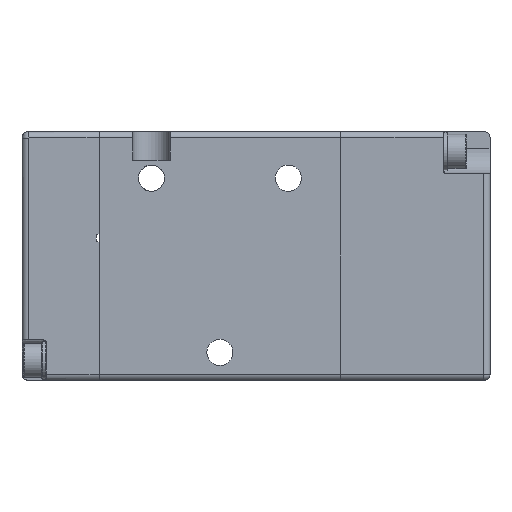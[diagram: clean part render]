
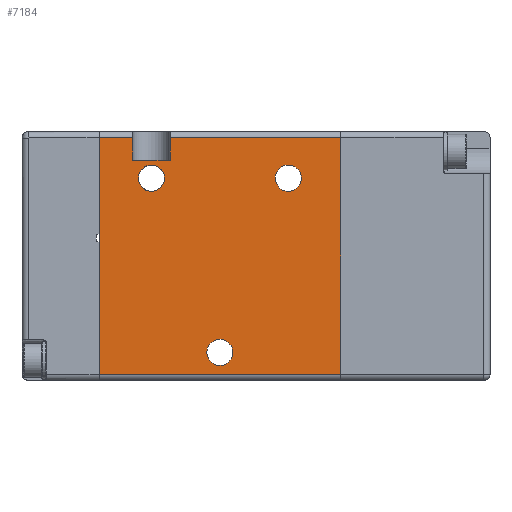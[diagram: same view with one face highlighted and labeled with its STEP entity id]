
A CAD part, front view. The second image highlights one B-rep face of the part: STEP entity #7184.
In plain terms, the highlighted planar face has unit normal (0, -1, 0).
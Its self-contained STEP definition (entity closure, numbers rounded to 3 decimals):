
#25 = ORIENTED_EDGE ( 'NONE', *, *, #6120, .T. ) ;
#132 = ORIENTED_EDGE ( 'NONE', *, *, #6239, .F. ) ;
#196 = ORIENTED_EDGE ( 'NONE', *, *, #6322, .F. ) ;
#198 = ORIENTED_EDGE ( 'NONE', *, *, #5565, .T. ) ;
#252 = ORIENTED_EDGE ( 'NONE', *, *, #6226, .F. ) ;
#389 = ORIENTED_EDGE ( 'NONE', *, *, #5856, .T. ) ;
#464 = ORIENTED_EDGE ( 'NONE', *, *, #5855, .T. ) ;
#484 = ORIENTED_EDGE ( 'NONE', *, *, #5858, .F. ) ;
#488 = ORIENTED_EDGE ( 'NONE', *, *, #6108, .T. ) ;
#554 = ORIENTED_EDGE ( 'NONE', *, *, #5848, .F. ) ;
#696 = VERTEX_POINT ( 'NONE', #3625 ) ;
#834 = ORIENTED_EDGE ( 'NONE', *, *, #6298, .F. ) ;
#924 = VERTEX_POINT ( 'NONE', #3913 ) ;
#1276 = DIRECTION ( 'NONE',  ( 1., 0., 0. ) ) ;
#1374 = DIRECTION ( 'NONE',  ( 1., 0., 0. ) ) ;
#1375 = CARTESIAN_POINT ( 'NONE',  ( -4.102, -11., -18.4 ) ) ;
#1399 = CARTESIAN_POINT ( 'NONE',  ( -23.502, -11., -22.9 ) ) ;
#1532 = DIRECTION ( 'NONE',  ( 0., -1., 0. ) ) ;
#1590 = DIRECTION ( 'NONE',  ( -1., 0., 0. ) ) ;
#1937 = CARTESIAN_POINT ( 'NONE',  ( -69.153, -11., -21.9 ) ) ;
#2005 = CARTESIAN_POINT ( 'NONE',  ( -69.153, -11., 16.1 ) ) ;
#2048 = DIRECTION ( 'NONE',  ( 0., 0., 1. ) ) ;
#2108 = DIRECTION ( 'NONE',  ( 0., 0., 1. ) ) ;
#2187 = CARTESIAN_POINT ( 'NONE',  ( 15.298, -11., -22.9 ) ) ;
#3612 = DIRECTION ( 'NONE',  ( -1., 0., 0. ) ) ;
#3625 = CARTESIAN_POINT ( 'NONE',  ( -23.502, -11., -21.9 ) ) ;
#3913 = CARTESIAN_POINT ( 'NONE',  ( -12.102, -11., 16.1 ) ) ;
#3932 = CARTESIAN_POINT ( 'NONE',  ( -69.153, -11., 16.1 ) ) ;
#4533 = VERTEX_POINT ( 'NONE', #5260 ) ;
#4590 = VERTEX_POINT ( 'NONE', #5191 ) ;
#4674 = VERTEX_POINT ( 'NONE', #5264 ) ;
#4808 = FACE_BOUND ( 'NONE', #8929, .T. ) ;
#4848 = FACE_OUTER_BOUND ( 'NONE', #9160, .T. ) ;
#4938 = FACE_BOUND ( 'NONE', #8996, .T. ) ;
#4941 = FACE_BOUND ( 'NONE', #9045, .T. ) ;
#5191 = CARTESIAN_POINT ( 'NONE',  ( -2.002, -11., -18.4 ) ) ;
#5260 = CARTESIAN_POINT ( 'NONE',  ( -13.002, -11., 9.6 ) ) ;
#5264 = CARTESIAN_POINT ( 'NONE',  ( 8.998, -11., 9.6 ) ) ;
#5565 = EDGE_CURVE ( 'NONE', #10072, #924, #9800, .T. ) ;
#5848 = EDGE_CURVE ( 'NONE', #4590, #4590, #10261, .T. ) ;
#5855 = EDGE_CURVE ( 'NONE', #9149, #10072, #10053, .T. ) ;
#5856 = EDGE_CURVE ( 'NONE', #696, #9149, #10181, .T. ) ;
#5858 = EDGE_CURVE ( 'NONE', #696, #9745, #9779, .T. ) ;
#6092 = AXIS2_PLACEMENT_3D ( 'NONE', #11329, #11282, #11283 ) ;
#6108 = EDGE_CURVE ( 'NONE', #10117, #9745, #10248, .T. ) ;
#6120 = EDGE_CURVE ( 'NONE', #9627, #10117, #10142, .T. ) ;
#6226 = EDGE_CURVE ( 'NONE', #4533, #4533, #10353, .T. ) ;
#6239 = EDGE_CURVE ( 'NONE', #9801, #924, #10276, .T. ) ;
#6298 = EDGE_CURVE ( 'NONE', #4674, #4674, #9597, .T. ) ;
#6322 = EDGE_CURVE ( 'NONE', #9627, #9801, #9639, .T. ) ;
#6380 = AXIS2_PLACEMENT_3D ( 'NONE', #13376, #13300, #13301 ) ;
#6537 = AXIS2_PLACEMENT_3D ( 'NONE', #11404, #11405, #11406 ) ;
#6737 = AXIS2_PLACEMENT_3D ( 'NONE', #1375, #1532, #1374 ) ;
#7184 = ADVANCED_FACE ( 'NONE', ( #4808, #4938, #4941, #4848 ), #11469, .F. ) ;
#7315 = CARTESIAN_POINT ( 'NONE',  ( -18.102, -11., 12.5 ) ) ;
#7379 = DIRECTION ( 'NONE',  ( 0., 0., 1. ) ) ;
#8929 = EDGE_LOOP ( 'NONE', ( #554 ) ) ;
#8996 = EDGE_LOOP ( 'NONE', ( #834 ) ) ;
#9045 = EDGE_LOOP ( 'NONE', ( #252 ) ) ;
#9149 = VERTEX_POINT ( 'NONE', #12259 ) ;
#9160 = EDGE_LOOP ( 'NONE', ( #196, #25, #488, #484, #389, #464, #198, #132 ) ) ;
#9597 = CIRCLE ( 'NONE', #6092, 2.1 ) ;
#9627 = VERTEX_POINT ( 'NONE', #12265 ) ;
#9639 = LINE ( 'NONE', #13578, #9818 ) ;
#9665 = VECTOR ( 'NONE', #2108, 1000. ) ;
#9712 = VECTOR ( 'NONE', #11467, 1000. ) ;
#9745 = VERTEX_POINT ( 'NONE', #12532 ) ;
#9779 = LINE ( 'NONE', #1399, #9933 ) ;
#9800 = LINE ( 'NONE', #3932, #9864 ) ;
#9801 = VERTEX_POINT ( 'NONE', #12501 ) ;
#9818 = VECTOR ( 'NONE', #13577, 1000. ) ;
#9822 = VECTOR ( 'NONE', #1590, 1000. ) ;
#9864 = VECTOR ( 'NONE', #3612, 1000. ) ;
#9896 = VECTOR ( 'NONE', #1276, 1000. ) ;
#9933 = VECTOR ( 'NONE', #2048, 1000. ) ;
#10053 = LINE ( 'NONE', #2187, #9665 ) ;
#10072 = VERTEX_POINT ( 'NONE', #11519 ) ;
#10090 = VECTOR ( 'NONE', #7379, 1000. ) ;
#10117 = VERTEX_POINT ( 'NONE', #12015 ) ;
#10142 = LINE ( 'NONE', #7315, #10090 ) ;
#10181 = LINE ( 'NONE', #1937, #9896 ) ;
#10248 = LINE ( 'NONE', #2005, #9822 ) ;
#10261 = CIRCLE ( 'NONE', #6737, 2.1 ) ;
#10276 = LINE ( 'NONE', #11147, #9712 ) ;
#10353 = CIRCLE ( 'NONE', #6537, 2.1 ) ;
#11147 = CARTESIAN_POINT ( 'NONE',  ( -12.102, -11., 12.5 ) ) ;
#11282 = DIRECTION ( 'NONE',  ( 0., -1., 0. ) ) ;
#11283 = DIRECTION ( 'NONE',  ( 1., 0., 0. ) ) ;
#11329 = CARTESIAN_POINT ( 'NONE',  ( 6.898, -11., 9.6 ) ) ;
#11404 = CARTESIAN_POINT ( 'NONE',  ( -15.102, -11., 9.6 ) ) ;
#11405 = DIRECTION ( 'NONE',  ( 0., -1., 0. ) ) ;
#11406 = DIRECTION ( 'NONE',  ( 1., 0., 0. ) ) ;
#11467 = DIRECTION ( 'NONE',  ( 0., 0., 1. ) ) ;
#11469 = PLANE ( 'NONE',  #6380 ) ;
#11519 = CARTESIAN_POINT ( 'NONE',  ( 15.298, -11., 16.1 ) ) ;
#12015 = CARTESIAN_POINT ( 'NONE',  ( -18.102, -11., 16.1 ) ) ;
#12259 = CARTESIAN_POINT ( 'NONE',  ( 15.298, -11., -21.9 ) ) ;
#12265 = CARTESIAN_POINT ( 'NONE',  ( -18.102, -11., 12.5 ) ) ;
#12501 = CARTESIAN_POINT ( 'NONE',  ( -12.102, -11., 12.5 ) ) ;
#12532 = CARTESIAN_POINT ( 'NONE',  ( -23.502, -11., 16.1 ) ) ;
#13300 = DIRECTION ( 'NONE',  ( 0., 1., 0. ) ) ;
#13301 = DIRECTION ( 'NONE',  ( -1., 0., 0. ) ) ;
#13376 = CARTESIAN_POINT ( 'NONE',  ( -69.153, -11., -22.9 ) ) ;
#13577 = DIRECTION ( 'NONE',  ( 1., 0., 0. ) ) ;
#13578 = CARTESIAN_POINT ( 'NONE',  ( -12.102, -11., 12.5 ) ) ;
